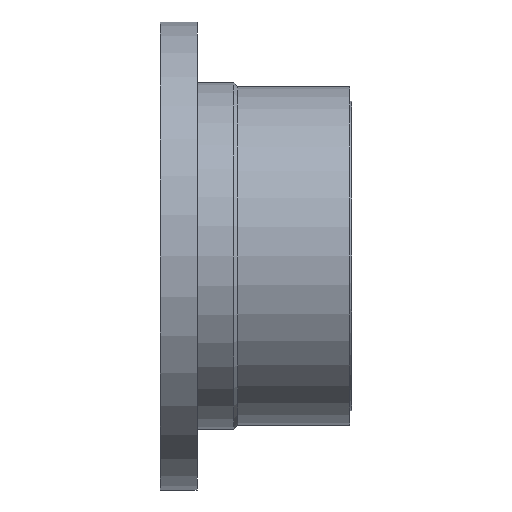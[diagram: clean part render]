
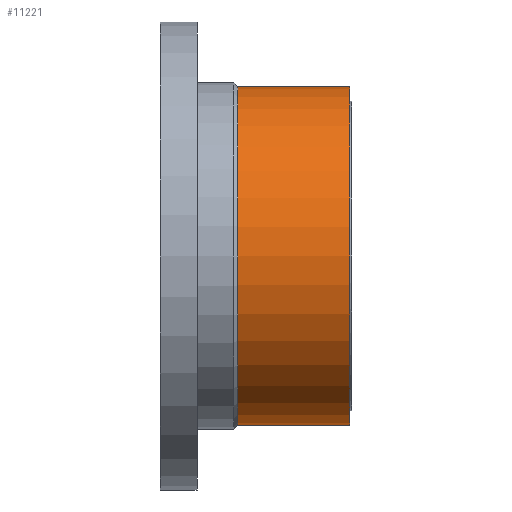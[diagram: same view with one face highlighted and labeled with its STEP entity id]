
A CAD part, left-side view. The second image highlights one B-rep face of the part: STEP entity #11221.
In plain terms, the highlighted cylindrical face has radius 46 mm (diameter 92 mm), a partial arc.
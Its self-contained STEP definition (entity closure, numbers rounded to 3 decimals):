
#47 = EDGE_CURVE ( 'NONE', #12948, #1957, #11224, .T. ) ;
#139 = DIRECTION ( 'NONE',  ( 0., 0., 1. ) ) ;
#1387 = CIRCLE ( 'NONE', #1603, 46. ) ;
#1603 = AXIS2_PLACEMENT_3D ( 'NONE', #9702, #4321, #139 ) ;
#1875 = CARTESIAN_POINT ( 'NONE',  ( 0., -42.5, 46. ) ) ;
#1957 = VERTEX_POINT ( 'NONE', #12529 ) ;
#2420 = ORIENTED_EDGE ( 'NONE', *, *, #13739, .F. ) ;
#2423 = CARTESIAN_POINT ( 'NONE',  ( 0., 16.949, -46. ) ) ;
#2527 = DIRECTION ( 'NONE',  ( 0., -1., 0. ) ) ;
#2545 = CIRCLE ( 'NONE', #12993, 46. ) ;
#2589 = ORIENTED_EDGE ( 'NONE', *, *, #4620, .T. ) ;
#2786 = DIRECTION ( 'NONE',  ( 0., 1., 0. ) ) ;
#3920 = EDGE_LOOP ( 'NONE', ( #2420, #11254, #7087, #2589 ) ) ;
#4321 = DIRECTION ( 'NONE',  ( 0., 1., 0. ) ) ;
#4620 = EDGE_CURVE ( 'NONE', #1957, #10855, #2545, .T. ) ;
#4705 = VERTEX_POINT ( 'NONE', #13317 ) ;
#4834 = DIRECTION ( 'NONE',  ( 0., 1., 0. ) ) ;
#5559 = VECTOR ( 'NONE', #2786, 1000. ) ;
#5706 = LINE ( 'NONE', #2423, #6891 ) ;
#6065 = CARTESIAN_POINT ( 'NONE',  ( 0., -12., -46. ) ) ;
#6891 = VECTOR ( 'NONE', #12044, 1000. ) ;
#7087 = ORIENTED_EDGE ( 'NONE', *, *, #47, .T. ) ;
#8882 = DIRECTION ( 'NONE',  ( 0., 0., 1. ) ) ;
#9698 = EDGE_CURVE ( 'NONE', #4705, #12948, #1387, .T. ) ;
#9702 = CARTESIAN_POINT ( 'NONE',  ( 0., -42.5, 0. ) ) ;
#10228 = CARTESIAN_POINT ( 'NONE',  ( 0., 16.949, 0. ) ) ;
#10298 = CYLINDRICAL_SURFACE ( 'NONE', #10695, 46. ) ;
#10695 = AXIS2_PLACEMENT_3D ( 'NONE', #10228, #4834, #11328 ) ;
#10851 = FACE_OUTER_BOUND ( 'NONE', #3920, .T. ) ;
#10855 = VERTEX_POINT ( 'NONE', #6065 ) ;
#11221 = ADVANCED_FACE ( 'NONE', ( #10851 ), #10298, .T. ) ;
#11224 = LINE ( 'NONE', #12324, #5559 ) ;
#11254 = ORIENTED_EDGE ( 'NONE', *, *, #9698, .T. ) ;
#11328 = DIRECTION ( 'NONE',  ( 0., 0., 1. ) ) ;
#12044 = DIRECTION ( 'NONE',  ( 0., 1., 0. ) ) ;
#12324 = CARTESIAN_POINT ( 'NONE',  ( 0., 16.949, 46. ) ) ;
#12529 = CARTESIAN_POINT ( 'NONE',  ( 0., -12., 46. ) ) ;
#12948 = VERTEX_POINT ( 'NONE', #1875 ) ;
#12993 = AXIS2_PLACEMENT_3D ( 'NONE', #13185, #2527, #8882 ) ;
#13185 = CARTESIAN_POINT ( 'NONE',  ( 0., -12., 0. ) ) ;
#13317 = CARTESIAN_POINT ( 'NONE',  ( 0., -42.5, -46. ) ) ;
#13739 = EDGE_CURVE ( 'NONE', #4705, #10855, #5706, .T. ) ;
